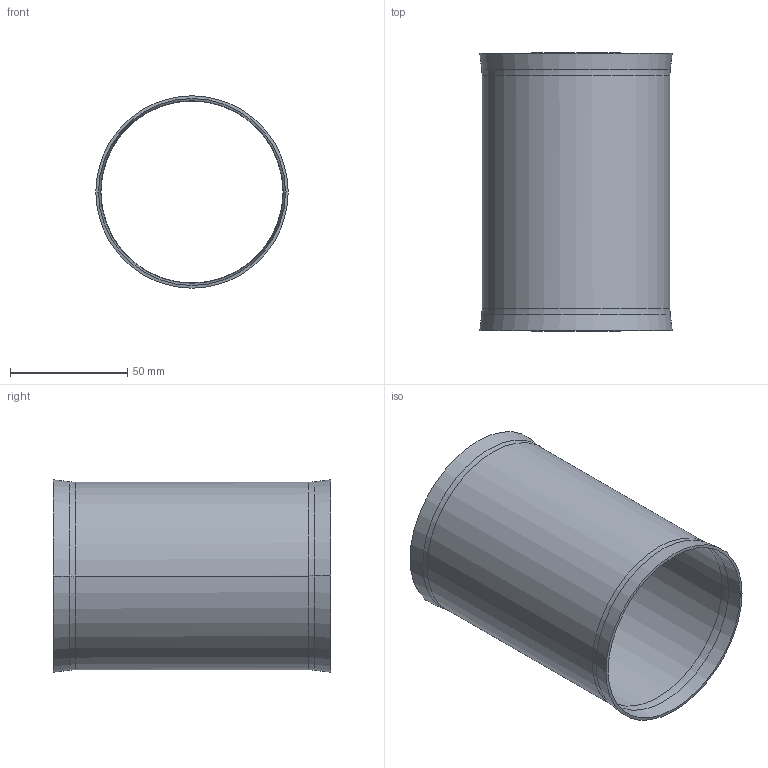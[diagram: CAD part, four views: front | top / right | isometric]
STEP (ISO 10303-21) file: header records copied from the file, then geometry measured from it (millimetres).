
FILE_DESCRIPTION((''),'2;1');
FILE_NAME('VM75','2025-12-30T10:53:15',('niepogodzinskij'),(''),'CREO PARAMETRIC BY PTC INC, 2025010','CREO PARAMETRIC BY PTC INC, 2025010','');
FILE_SCHEMA(('CONFIG_CONTROL_DESIGN'));
Length unit declared in the file: millimetre
Products named in the file (1): VM75
Bounding box: 82 x 118.3 x 82 mm (x, y, z)
Volume: 35177.5 mm3; surface area: 59267 mm2
Topology: 1 solids, 1 shells, 24 faces, 64 edges, 40 vertices
Faces by surface type: cone 12, torus 8, cylinder 4
Entity records: 814 total; most frequent: DIRECTION 160, CARTESIAN_POINT 128, ORIENTED_EDGE 128, AXIS2_PLACEMENT_3D 72, EDGE_CURVE 64, CIRCLE 48, VERTEX_POINT 40, EDGE_LOOP 24
